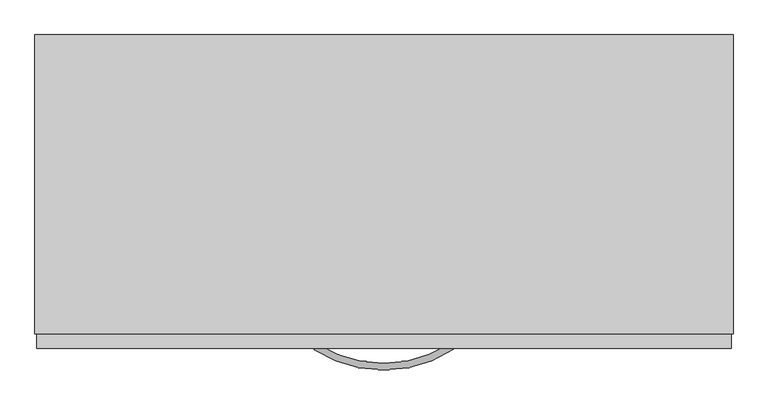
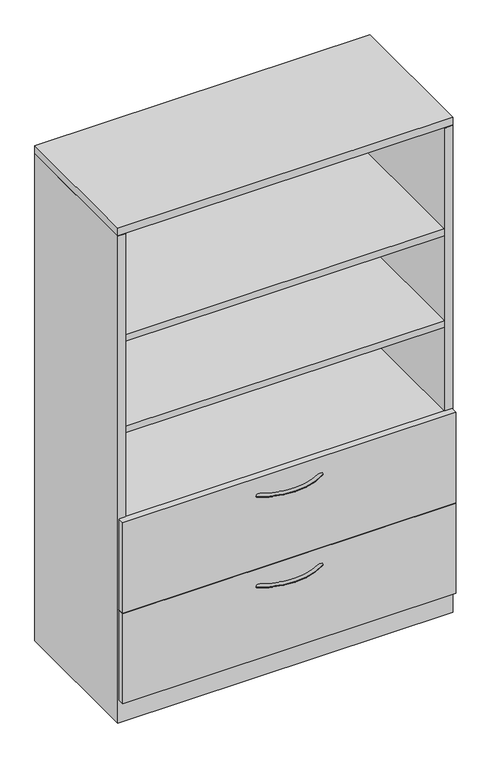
"""IFC4 building model written with IfcOpenShell, lengths in millimetres: furniture geometry, Steelcase - Universal Storage - Cabinet - Combination - Proud Steel : 65 1/2H - Open Cabinet/2 Drawers - 18 7/8D x 42W."""

from ifc_helpers import new_model, si_unit, point, frame, origin, place, context, project, spatial, polyline, circle_curve, ellipse_curve, trimmed, outline, extrude, faceted_brep, source, transform, mapped, element, save
from ifc_brep_helpers import plane_surface, revolved_surface, advanced_brep


def furniture_2303acd7(model_context):
    return source(origin(), model_context, "Body", "SolidModel", [
        extrude(outline(polyline([(1041.4000242, -25.4000008), (1041.4000242, -454.0250121), (25.4000008, -454.0250121), (25.4000008, -25.4000008), (1041.4000242, -25.4000008)])), frame((0.0, 0.0, 660.4000242), z_axis=(0.0, 0.0, 1.0), x_axis=(1.0, 0.0, 0.0)), (0.0, 0.0, 1.0), 22.2249516),
        extrude(outline(polyline([(1041.4000242, -25.4000008), (1041.4000242, -454.0250121), (25.4000008, -454.0250121), (25.4000008, -25.4000008), (1041.4000242, -25.4000008)])), frame((0.0, 0.0, 965.2000242), z_axis=(0.0, 0.0, 1.0), x_axis=(1.0, 0.0, 0.0)), (0.0, 0.0, 1.0), 22.2249516),
        extrude(outline(polyline([(1041.4000242, -25.4000008), (1041.4000242, -454.0250121), (25.4000008, -454.0250121), (25.4000008, -25.4000008), (1041.4000242, -25.4000008)])), frame((0.0, 0.0, 1273.1750484), z_axis=(0.0, 0.0, 1.0), x_axis=(1.0, 0.0, 0.0)), (0.0, 0.0, 1.0), 22.2249516),
        advanced_brep(
        [(426.8245932, -481.5705994, 323.56425), (432.2977519, -473.0108019, 323.56425), (639.1315136, -481.1337636, 323.56425), (633.6231767, -472.5965612, 323.56425)],
        [
            (0, 1, circle_curve(frame((429.5611726, -477.2907007, 323.56425), z_axis=(-0.8424997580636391, 0.5386967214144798, 0.0), x_axis=(0.5386967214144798, 0.8424997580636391, 0.0)), 5.08)),
            (1, 0, circle_curve(frame((429.5611726, -477.2907007, 323.56425), z_axis=(-0.8424997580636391, 0.5386967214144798, 0.0), x_axis=(0.5386967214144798, 0.8424997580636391, 0.0)), 5.08)),
            (2, 3, circle_curve(frame((636.3773452, -476.8651624, 323.56425), z_axis=(0.8402758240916, 0.5421591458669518, 0.0), x_axis=(-0.5421591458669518, 0.8402758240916, 0.0)), 5.08)),
            (3, 2, circle_curve(frame((636.3773452, -476.8651624, 323.56425), z_axis=(0.8402758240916, 0.5421591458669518, 0.0), x_axis=(-0.5421591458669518, 0.8402758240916, 0.0)), 5.08)),
            (3, 1, circle_curve(frame((532.6380004, -316.0827352, 323.56425), z_axis=(0.0, 0.0, -1.0), x_axis=(-0.5386967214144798, -0.8424997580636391, 0.0)), 186.2648211)),
            (0, 2, circle_curve(frame((532.6380004, -316.0827352, 323.56425), z_axis=(0.0, 0.0, 1.0), x_axis=(-0.5386967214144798, -0.8424997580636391, 0.0)), 196.4248211)),
        ],
        [
            plane_surface(frame((429.9794521, -476.6365286, 324.358), z_axis=(-0.8424997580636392, 0.5386967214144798, 0.0), x_axis=(0.0, 0.0, 1.0))),
            plane_surface(frame((635.9563772, -476.2127171, 324.358), z_axis=(0.8402758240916, 0.5421591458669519, 0.0), x_axis=(0.0, 0.0, 1.0))),
            revolved_surface(trimmed(ellipse_curve(frame((429.5611726, -477.2907007, 323.56425), z_axis=(-0.8424997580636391, 0.5386967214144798, 0.0), x_axis=(0.5386967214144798, 0.8424997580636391, 0.0)), 5.08, 5.08), [point((426.8245932, -481.5705994, 323.56425))], [point((432.2977519, -473.0108019, 323.56425))], True, "CARTESIAN"), (532.6380004, -316.0827352, 324.358), (0.0, 0.0, 1.0)),
            revolved_surface(trimmed(ellipse_curve(frame((429.5611726, -477.2907007, 323.56425), z_axis=(-0.8424997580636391, 0.5386967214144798, 0.0), x_axis=(0.5386967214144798, 0.8424997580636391, 0.0)), 5.08, 5.08), [point((432.2977519, -473.0108019, 323.56425))], [point((426.8245932, -481.5705994, 323.56425))], True, "CARTESIAN"), (532.6380004, -316.0827352, 324.358), (0.0, 0.0, 1.0)),
        ],
        [
            (0, [[1, 2]]),
            (1, [[3, 4]]),
            (2, [[5, -1, 6, -4]]),
            (3, [[-6, -2, -5, -3]]),
        ],
    ),
        advanced_brep(
        [(426.8245932, -481.5705994, 627.85625), (432.2977519, -473.0108019, 627.85625), (639.1315136, -481.1337636, 627.85625), (633.6231767, -472.5965612, 627.85625)],
        [
            (0, 1, circle_curve(frame((429.5611726, -477.2907007, 627.85625), z_axis=(-0.8424997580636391, 0.5386967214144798, 0.0), x_axis=(0.5386967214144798, 0.8424997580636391, 0.0)), 5.08)),
            (1, 0, circle_curve(frame((429.5611726, -477.2907007, 627.85625), z_axis=(-0.8424997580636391, 0.5386967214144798, 0.0), x_axis=(0.5386967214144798, 0.8424997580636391, 0.0)), 5.08)),
            (2, 3, circle_curve(frame((636.3773452, -476.8651624, 627.85625), z_axis=(0.8402758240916, 0.5421591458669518, 0.0), x_axis=(-0.5421591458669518, 0.8402758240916, 0.0)), 5.08)),
            (3, 2, circle_curve(frame((636.3773452, -476.8651624, 627.85625), z_axis=(0.8402758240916, 0.5421591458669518, 0.0), x_axis=(-0.5421591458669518, 0.8402758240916, 0.0)), 5.08)),
            (3, 1, circle_curve(frame((532.6380004, -316.0827352, 627.85625), z_axis=(0.0, 0.0, -1.0), x_axis=(-0.5386967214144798, -0.8424997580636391, 0.0)), 186.2648211)),
            (0, 2, circle_curve(frame((532.6380004, -316.0827352, 627.85625), z_axis=(0.0, 0.0, 1.0), x_axis=(-0.5386967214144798, -0.8424997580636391, 0.0)), 196.4248211)),
        ],
        [
            plane_surface(frame((429.9794521, -476.6365286, 628.65), z_axis=(-0.8424997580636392, 0.5386967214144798, 0.0), x_axis=(0.0, 0.0, 1.0))),
            plane_surface(frame((635.9563772, -476.2127171, 628.65), z_axis=(0.8402758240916, 0.5421591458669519, 0.0), x_axis=(0.0, 0.0, 1.0))),
            revolved_surface(trimmed(ellipse_curve(frame((429.5611726, -477.2907007, 627.85625), z_axis=(-0.8424997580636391, 0.5386967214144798, 0.0), x_axis=(0.5386967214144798, 0.8424997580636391, 0.0)), 5.08, 5.08), [point((426.8245932, -481.5705994, 627.85625))], [point((432.2977519, -473.0108019, 627.85625))], True, "CARTESIAN"), (532.6380004, -316.0827352, 628.65), (0.0, 0.0, 1.0)),
            revolved_surface(trimmed(ellipse_curve(frame((429.5611726, -477.2907007, 627.85625), z_axis=(-0.8424997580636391, 0.5386967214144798, 0.0), x_axis=(0.5386967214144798, 0.8424997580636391, 0.0)), 5.08, 5.08), [point((432.2977519, -473.0108019, 627.85625))], [point((426.8245932, -481.5705994, 627.85625))], True, "CARTESIAN"), (532.6380004, -316.0827352, 628.65), (0.0, 0.0, 1.0)),
        ],
        [
            (0, [[1, 2]]),
            (1, [[3, 4]]),
            (2, [[5, -1, 6, -4]]),
            (3, [[-6, -2, -5, -3]]),
        ],
    ),
        faceted_brep([(25.4000008, -457.3261219, 76.2), (1041.4000242, -457.3261219, 76.2), (1041.4000242, -25.4000008, 76.2), (25.4000008, -25.4000008, 76.2), (1066.8, 0.0, 0.0), (1066.8, -457.3261219, 0.0), (0.0, -457.3261219, 0.0), (0.0, 0.0, 0.0), (0.0, 0.0, 1636.776), (1066.8, 0.0, 1636.776), (0.0, -457.3261219, 1636.776), (1066.8, -457.3261219, 1636.776), (1041.4000242, -457.3261219, 1636.776), (25.4000008, -457.3261219, 1636.776), (1041.4000242, -25.4000008, 1636.776), (25.4000008, -25.4000008, 1636.776)], [[[0, 1, 2, 3]], [[4, 5, 6, 7]], [[4, 7, 8, 9]], [[8, 7, 6, 10]], [[10, 6, 5, 11, 12, 1, 0, 13]], [[11, 5, 4, 9]], [[14, 12, 11, 9, 8, 10, 13, 15]], [[12, 14, 2, 1]], [[15, 13, 0, 3]], [[14, 15, 3, 2]]]),
        extrude(outline(polyline([(1063.6225413, -479.552), (3.1725353, -479.552), (3.1725353, -457.3261219), (1063.6225413, -457.3261219), (1063.6225413, -479.552)])), frame((0.0, 0.0, 77.724), z_axis=(0.0, 0.0, 1.0), x_axis=(1.0, 0.0, 0.0)), (0.0, 0.0, 1.0), 303.276),
        extrude(outline(polyline([(1063.6225413, -479.552), (3.1725353, -479.552), (3.1725353, -457.3261219), (1063.6225413, -457.3261219), (1063.6225413, -479.552)])), frame((0.0, 0.0, 382.524), z_axis=(0.0, 0.0, 1.0), x_axis=(1.0, 0.0, 0.0)), (0.0, 0.0, 1.0), 303.276),
        extrude(outline(polyline([(1066.8, 0.0), (1066.8, -457.3261219), (0.0, -457.3261219), (0.0, 0.0), (1066.8, 0.0)])), frame((0.0, 0.0, 1638.2999516), z_axis=(0.0, 0.0, 1.0), x_axis=(1.0, 0.0, 0.0)), (0.0, 0.0, 1.0), 25.4000484),
    ])


if __name__ == "__main__":
    model = new_model("IFC4")
    model_context = context("Model", 3, world=origin())
    ifc_project = project(units=[si_unit("LENGTHUNIT", "METRE", prefix="MILLI")], contexts=[model_context])
    site = spatial("IfcSite", under=ifc_project)
    building = spatial("IfcBuilding", under=site)
    placement = place(None, origin())
    furniture_shape = furniture_2303acd7(model_context)
    element("IfcFurniture", 1, ObjectType="Steelcase - Universal Storage - Cabinet - Combination - Proud Steel : 65 1/2H - Open Cabinet/2 Drawers - 18 7/8D x 42W", at=placement, inside=building, context=model_context, shape_type="MappedRepresentation", body=[
        mapped(furniture_shape, transform((0.0, 0.0, 0.0), x_axis=(1.0, 0.0, 0.0), y_axis=(0.0, 1.0, 0.0), z_axis=(0.0, 0.0, 1.0))),
    ])
    save(model, "model.ifc")
